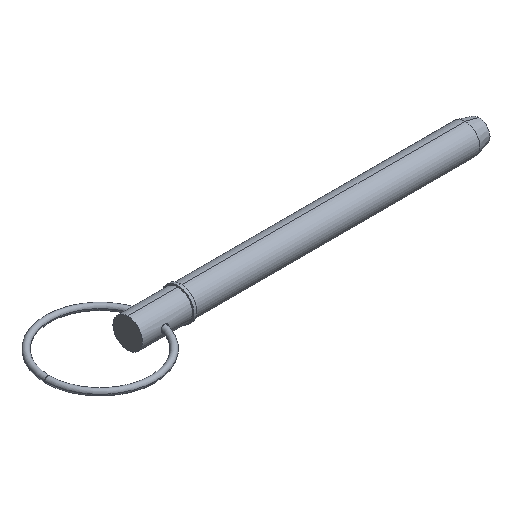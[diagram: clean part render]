
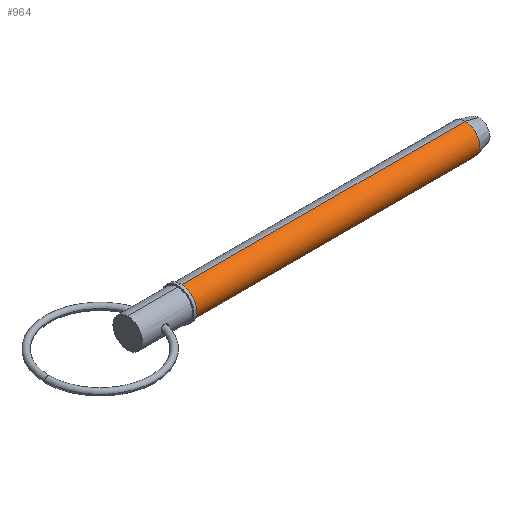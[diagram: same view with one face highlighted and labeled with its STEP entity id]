
A CAD part, isometric view. The second image highlights one B-rep face of the part: STEP entity #964.
In plain terms, the highlighted cylindrical face has radius 7.145 mm (diameter 14.29 mm), a partial arc.
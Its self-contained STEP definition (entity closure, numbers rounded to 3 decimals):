
#21 = LINE ( 'NONE', #688, #377 ) ;
#39 = AXIS2_PLACEMENT_3D ( 'NONE', #864, #884, #794 ) ;
#111 = EDGE_CURVE ( 'NONE', #601, #842, #861, .T. ) ;
#136 = DIRECTION ( 'NONE',  ( 1., 0., 0. ) ) ;
#156 = CIRCLE ( 'NONE', #39, 7.145 ) ;
#187 = CARTESIAN_POINT ( 'NONE',  ( 25.7, 0., -7.145 ) ) ;
#219 = CARTESIAN_POINT ( 'NONE',  ( 163.484, 0., -7.145 ) ) ;
#266 = DIRECTION ( 'NONE',  ( 1., 0., 0. ) ) ;
#309 = CARTESIAN_POINT ( 'NONE',  ( 163.484, 0., 7.145 ) ) ;
#341 = ORIENTED_EDGE ( 'NONE', *, *, #917, .F. ) ;
#351 = CARTESIAN_POINT ( 'NONE',  ( 0., 0., 7.145 ) ) ;
#356 = LINE ( 'NONE', #351, #396 ) ;
#377 = VECTOR ( 'NONE', #266, 1000. ) ;
#394 = AXIS2_PLACEMENT_3D ( 'NONE', #622, #136, #949 ) ;
#396 = VECTOR ( 'NONE', #660, 1000. ) ;
#404 = ORIENTED_EDGE ( 'NONE', *, *, #567, .F. ) ;
#508 = VERTEX_POINT ( 'NONE', #309 ) ;
#543 = ORIENTED_EDGE ( 'NONE', *, *, #111, .T. ) ;
#564 = VERTEX_POINT ( 'NONE', #219 ) ;
#567 = EDGE_CURVE ( 'NONE', #508, #564, #156, .T. ) ;
#601 = VERTEX_POINT ( 'NONE', #655 ) ;
#622 = CARTESIAN_POINT ( 'NONE',  ( 25.7, 0., 0. ) ) ;
#655 = CARTESIAN_POINT ( 'NONE',  ( 25.7, 0., 7.145 ) ) ;
#660 = DIRECTION ( 'NONE',  ( 1., 0., 0. ) ) ;
#688 = CARTESIAN_POINT ( 'NONE',  ( 0., 0., -7.145 ) ) ;
#756 = FACE_OUTER_BOUND ( 'NONE', #990, .T. ) ;
#764 = EDGE_CURVE ( 'NONE', #842, #564, #21, .T. ) ;
#773 = DIRECTION ( 'NONE',  ( 0., 0., -1. ) ) ;
#794 = DIRECTION ( 'NONE',  ( 0., 0., -1. ) ) ;
#814 = ORIENTED_EDGE ( 'NONE', *, *, #764, .T. ) ;
#838 = CYLINDRICAL_SURFACE ( 'NONE', #1042, 7.145 ) ;
#842 = VERTEX_POINT ( 'NONE', #187 ) ;
#852 = CARTESIAN_POINT ( 'NONE',  ( 0., 0., 0. ) ) ;
#861 = CIRCLE ( 'NONE', #394, 7.145 ) ;
#864 = CARTESIAN_POINT ( 'NONE',  ( 163.484, 0., 0. ) ) ;
#884 = DIRECTION ( 'NONE',  ( 1., 0., 0. ) ) ;
#917 = EDGE_CURVE ( 'NONE', #601, #508, #356, .T. ) ;
#949 = DIRECTION ( 'NONE',  ( 0., 0., -1. ) ) ;
#964 = ADVANCED_FACE ( 'NONE', ( #756 ), #838, .T. ) ;
#989 = DIRECTION ( 'NONE',  ( 1., 0., 0. ) ) ;
#990 = EDGE_LOOP ( 'NONE', ( #341, #543, #814, #404 ) ) ;
#1042 = AXIS2_PLACEMENT_3D ( 'NONE', #852, #989, #773 ) ;
